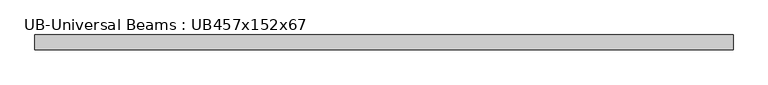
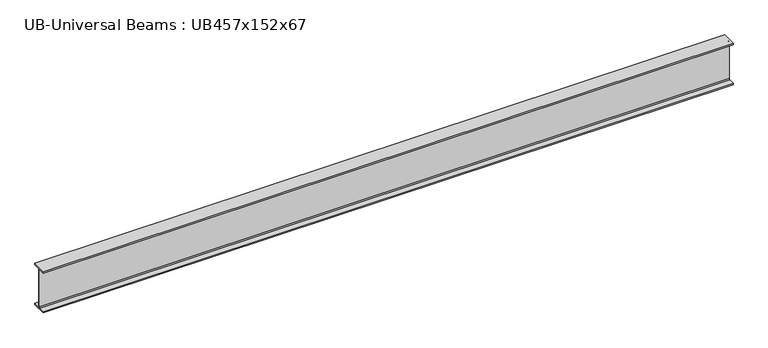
"""IFC4 building model written with IfcOpenShell, lengths in millimetres: beam geometry, UB-Universal Beams : UB457x152x67."""

from ifc_helpers import new_model, si_unit, point, frame, frame_2d, origin, place, context, project, spatial, polyline, circle_curve, trimmed, segment, composite_curve, outline, extrude, source, transform, mapped, element, save


def ub_universal_beams_ub457x152x67_59459dd6(model_context):
    return source(origin(), model_context, "Body", "SweptSolid", [
        extrude(outline(composite_curve([segment(polyline([(76.9, -214.0), (76.9, -229.0), (-76.9, -229.0), (-76.9, -214.0), (-14.7, -214.0)]), True, "CONTINUOUS"), segment(trimmed(circle_curve(frame_2d((-14.7, -203.8)), 10.2), [point((-14.7, -214.0))], [point((-4.5, -203.8))], True, "CARTESIAN"), True, "CONTINUOUS"), segment(polyline([(-4.5, -203.8), (-4.5, 203.8)]), True, "CONTINUOUS"), segment(trimmed(circle_curve(frame_2d((-14.7, 203.8)), 10.2), [point((-4.5, 203.8))], [point((-14.7, 214.0))], True, "CARTESIAN"), True, "CONTINUOUS"), segment(polyline([(-14.7, 214.0), (-76.9, 214.0), (-76.9, 229.0), (76.9, 229.0), (76.9, 214.0), (14.7, 214.0)]), True, "CONTINUOUS"), segment(trimmed(circle_curve(frame_2d((14.7, 203.8)), 10.2), [point((14.7, 214.0))], [point((4.5, 203.8))], True, "CARTESIAN"), True, "CONTINUOUS"), segment(polyline([(4.5, 203.8), (4.5, -203.8)]), True, "CONTINUOUS"), segment(trimmed(circle_curve(frame_2d((14.7, -203.8)), 10.2), [point((4.5, -203.8))], [point((14.7, -214.0))], True, "CARTESIAN"), True, "CONTINUOUS"), segment(polyline([(14.7, -214.0), (76.9, -214.0)]), True, "CONTINUOUS")], self_intersect=False)), frame((-3634.1, 0.0, 0.0), z_axis=(1.0, 0.0, 0.0), x_axis=(0.0, 1.0, 0.0)), (0.0, 0.0, 1.0), 7240.7),
    ])


if __name__ == "__main__":
    model = new_model("IFC4")
    model_context = context("Model", 3, world=origin())
    ifc_project = project(units=[si_unit("LENGTHUNIT", "METRE", prefix="MILLI")], contexts=[model_context])
    site = spatial("IfcSite", under=ifc_project)
    building = spatial("IfcBuilding", under=site)
    placement = place(None, origin())
    ub_universal_beams_ub457x152x67_shape = ub_universal_beams_ub457x152x67_59459dd6(model_context)
    element("IfcBeam", 1, ObjectType="UB-Universal Beams : UB457x152x67", at=placement, inside=building, context=model_context, shape_type="MappedRepresentation", body=[
        mapped(ub_universal_beams_ub457x152x67_shape, transform((0.0, 0.0, 0.0), x_axis=(1.0, 0.0, 0.0), y_axis=(0.0, 1.0, 0.0), z_axis=(0.0, 0.0, 1.0))),
    ])
    save(model, "model.ifc")
